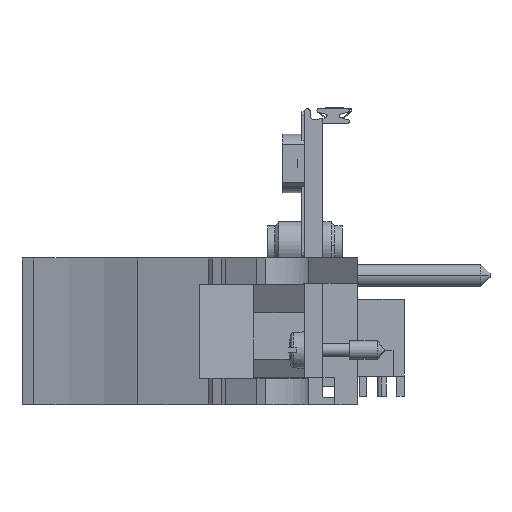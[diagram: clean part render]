
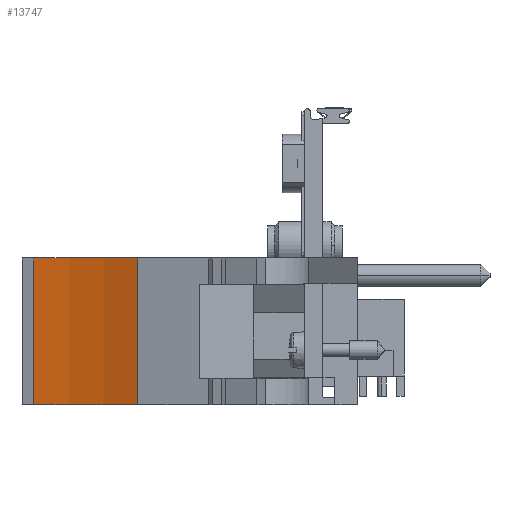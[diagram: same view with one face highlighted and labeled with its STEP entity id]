
A CAD part, front view. The second image highlights one B-rep face of the part: STEP entity #13747.
In plain terms, the highlighted cylindrical face has radius 51.46 mm (diameter 102.919 mm), a partial arc.
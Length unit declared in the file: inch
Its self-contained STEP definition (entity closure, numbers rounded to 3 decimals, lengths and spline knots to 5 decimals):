
#44=CARTESIAN_POINT('',(-8.52817,-6.63574,
-0.15451));
#45=DIRECTION('',(0.,0.,-1.));
#46=DIRECTION('',(0.16,0.987,0.));
#47=AXIS2_PLACEMENT_3D('',#44,#45,#46);
#4531=CARTESIAN_POINT('',(-8.52817,-6.63574,
0.63349));
#4532=DIRECTION('',(0.,0.,-1.));
#4533=DIRECTION('',(0.16,0.987,0.));
#4534=AXIS2_PLACEMENT_3D('',#4531,#4532,#4533);
#4878=DIRECTION('',(0.,0.,-1.));
#4879=VECTOR('',#4878,0.788);
#4880=CARTESIAN_POINT('',(-8.20484,-4.63574,
0.63349));
#4881=LINE('',#4880,#4879);
#4882=DIRECTION('',(0.,0.,1.));
#4883=VECTOR('',#4882,0.788);
#4884=CARTESIAN_POINT('',(-7.64686,-4.8115,
-0.15451));
#4885=LINE('',#4884,#4883);
#6276=CARTESIAN_POINT('',(-7.64686,-4.8115,
-0.15451));
#6277=VERTEX_POINT('',#6276);
#6278=CARTESIAN_POINT('',(-8.20484,-4.63574,
-0.15451));
#6279=VERTEX_POINT('',#6278);
#6390=CARTESIAN_POINT('',(-7.64686,-4.8115,
0.63349));
#6391=VERTEX_POINT('',#6390);
#6392=CARTESIAN_POINT('',(-8.20484,-4.63574,
0.63349));
#6393=VERTEX_POINT('',#6392);
#13735=CARTESIAN_POINT('',(-8.52817,-6.63574,
-0.17027));
#13736=DIRECTION('',(0.,0.,1.));
#13737=DIRECTION('',(0.,1.,0.));
#13738=AXIS2_PLACEMENT_3D('',#13735,#13736,#13737);
#13739=CYLINDRICAL_SURFACE('',#13738,2.02597);
#13740=ORIENTED_EDGE('',*,*,#7035,.F.);
#13742=ORIENTED_EDGE('',*,*,#13741,.F.);
#13743=ORIENTED_EDGE('',*,*,#13161,.T.);
#13744=ORIENTED_EDGE('',*,*,#13721,.F.);
#13745=EDGE_LOOP('',(#13740,#13742,#13743,#13744));
#13746=FACE_OUTER_BOUND('',#13745,.F.);
#13747=ADVANCED_FACE('',(#13746),#13739,.F.);
#48=CIRCLE('',#47,2.02597);
#4535=CIRCLE('',#4534,2.02597);
#7035=EDGE_CURVE('',#6279,#6277,#48,.T.);
#13161=EDGE_CURVE('',#6393,#6391,#4535,.T.);
#13721=EDGE_CURVE('',#6277,#6391,#4885,.T.);
#13741=EDGE_CURVE('',#6393,#6279,#4881,.T.);
